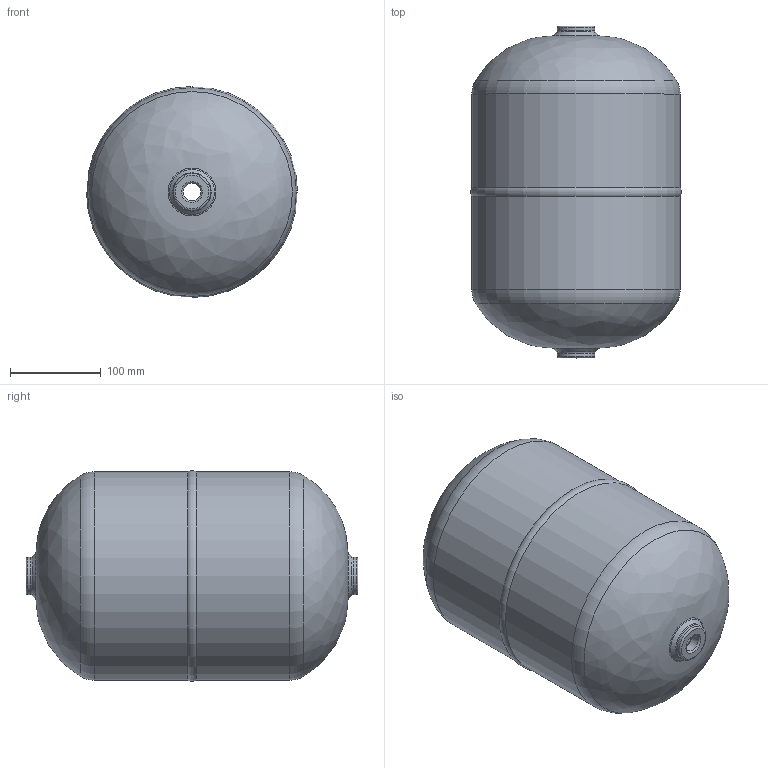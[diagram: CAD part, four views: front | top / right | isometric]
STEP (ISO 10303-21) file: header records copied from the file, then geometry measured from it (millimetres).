
FILE_DESCRIPTION(/* description */ (''),/* implementation_level */ '2;1');
FILE_NAME(/* name */ 'S:\_Tecnico\ArchivioUT\_Disegni3D ingombri\DISEGNI 3D per ingombri\SA\SA2U0120.stp',/* time_stamp */ '2021-09-16T13:58:19+02:00',/* author */ ('ufficiotecnico3'),/* organization */ (''),/* preprocessor_version */ 'ST-DEVELOPER v18',/* originating_system */ 'Autodesk Inventor 2020',/* authorisation */ '');
FILE_SCHEMA (('AUTOMOTIVE_DESIGN { 1 0 10303 214 3 1 1 }'));
Length unit declared in the file: millimetre
Products named in the file (1): SA2U0120
Bounding box: 231.94 x 365 x 231.94 mm (x, y, z)
Volume: 1400614 mm3; surface area: 532111.1 mm2
Topology: 1 solids, 1 shells, 30 faces, 98 edges, 72 vertices
Faces by surface type: torus 9, cylinder 7, cone 6, plane 4, bspline 4
Full cylindrical faces by diameter (mm): 19.172 x2, 41 x2, 219 x1, 229 x2
Entity records: 1339 total; most frequent: CARTESIAN_POINT 305, DIRECTION 237, ORIENTED_EDGE 196, AXIS2_PLACEMENT_3D 112, EDGE_CURVE 98, CIRCLE 85, VERTEX_POINT 72, EDGE_LOOP 34
